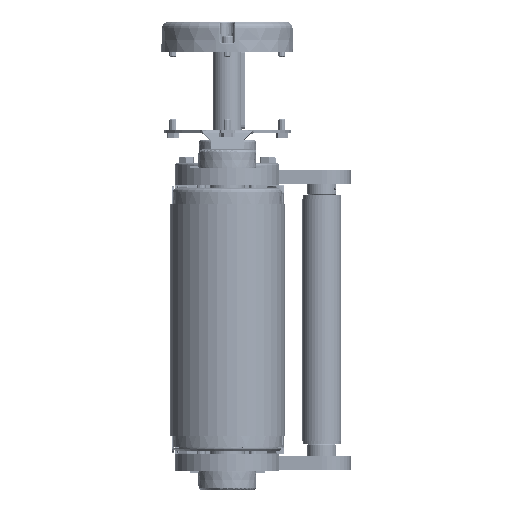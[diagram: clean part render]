
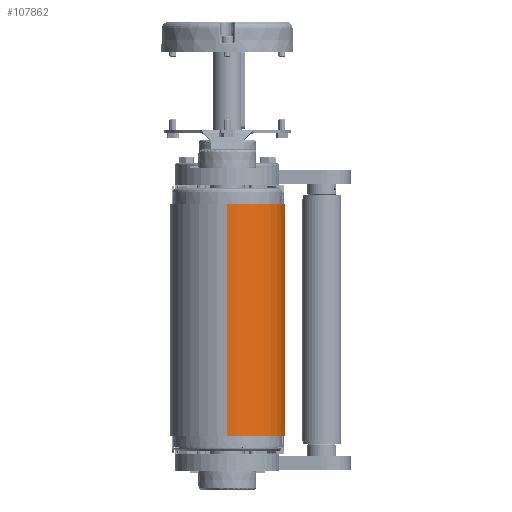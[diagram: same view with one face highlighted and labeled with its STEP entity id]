
A CAD part, left-side view. The second image highlights one B-rep face of the part: STEP entity #107862.
In plain terms, the highlighted cylindrical face has radius 49.5 mm (diameter 99 mm), a partial arc.
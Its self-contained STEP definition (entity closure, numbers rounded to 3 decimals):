
#2659 = DIRECTION ( 'NONE',  ( 0., 0., -1. ) ) ;
#5615 = VERTEX_POINT ( 'NONE', #65266 ) ;
#12698 = AXIS2_PLACEMENT_3D ( 'NONE', #57386, #71114, #179852 ) ;
#16320 = AXIS2_PLACEMENT_3D ( 'NONE', #66281, #54341, #122917 ) ;
#17297 = LINE ( 'NONE', #58443, #177990 ) ;
#30983 = EDGE_CURVE ( 'NONE', #51391, #5615, #115591, .T. ) ;
#43669 = FACE_OUTER_BOUND ( 'NONE', #83351, .T. ) ;
#51391 = VERTEX_POINT ( 'NONE', #78982 ) ;
#53748 = LINE ( 'NONE', #84793, #129624 ) ;
#54341 = DIRECTION ( 'NONE',  ( 0., 0., 1. ) ) ;
#57386 = CARTESIAN_POINT ( 'NONE',  ( -2500., 0., 100. ) ) ;
#57470 = CARTESIAN_POINT ( 'NONE',  ( -2500., -49.5, 100. ) ) ;
#58443 = CARTESIAN_POINT ( 'NONE',  ( -2500., -49.5, 100. ) ) ;
#65266 = CARTESIAN_POINT ( 'NONE',  ( -2500., -49.5, -100. ) ) ;
#66281 = CARTESIAN_POINT ( 'NONE',  ( -2500., 0., -100. ) ) ;
#66901 = ORIENTED_EDGE ( 'NONE', *, *, #83655, .F. ) ;
#67058 = EDGE_CURVE ( 'NONE', #130199, #93102, #179963, .T. ) ;
#71114 = DIRECTION ( 'NONE',  ( 0., 0., -1. ) ) ;
#77780 = ORIENTED_EDGE ( 'NONE', *, *, #30983, .T. ) ;
#78562 = DIRECTION ( 'NONE',  ( 0., 0., 1. ) ) ;
#78982 = CARTESIAN_POINT ( 'NONE',  ( -2549.5, 0., -100. ) ) ;
#80353 = DIRECTION ( 'NONE',  ( 1., 0., 0. ) ) ;
#83351 = EDGE_LOOP ( 'NONE', ( #146626, #148382, #77780, #66901 ) ) ;
#83655 = EDGE_CURVE ( 'NONE', #93102, #5615, #17297, .T. ) ;
#84793 = CARTESIAN_POINT ( 'NONE',  ( -2549.5, 0., 100. ) ) ;
#90056 = EDGE_CURVE ( 'NONE', #130199, #51391, #53748, .T. ) ;
#93102 = VERTEX_POINT ( 'NONE', #57470 ) ;
#105968 = CARTESIAN_POINT ( 'NONE',  ( -2500., 0., 100. ) ) ;
#107862 = ADVANCED_FACE ( 'NONE', ( #43669 ), #155131, .T. ) ;
#115591 = CIRCLE ( 'NONE', #16320, 49.5 ) ;
#122917 = DIRECTION ( 'NONE',  ( 1., 0., 0. ) ) ;
#125920 = DIRECTION ( 'NONE',  ( 0., 0., -1. ) ) ;
#129624 = VECTOR ( 'NONE', #125920, 1000. ) ;
#130199 = VERTEX_POINT ( 'NONE', #177837 ) ;
#146626 = ORIENTED_EDGE ( 'NONE', *, *, #67058, .F. ) ;
#148382 = ORIENTED_EDGE ( 'NONE', *, *, #90056, .T. ) ;
#155131 = CYLINDRICAL_SURFACE ( 'NONE', #12698, 49.5 ) ;
#159613 = AXIS2_PLACEMENT_3D ( 'NONE', #105968, #78562, #80353 ) ;
#177837 = CARTESIAN_POINT ( 'NONE',  ( -2549.5, 0., 100. ) ) ;
#177990 = VECTOR ( 'NONE', #2659, 1000. ) ;
#179852 = DIRECTION ( 'NONE',  ( -1., 0., 0. ) ) ;
#179963 = CIRCLE ( 'NONE', #159613, 49.5 ) ;
